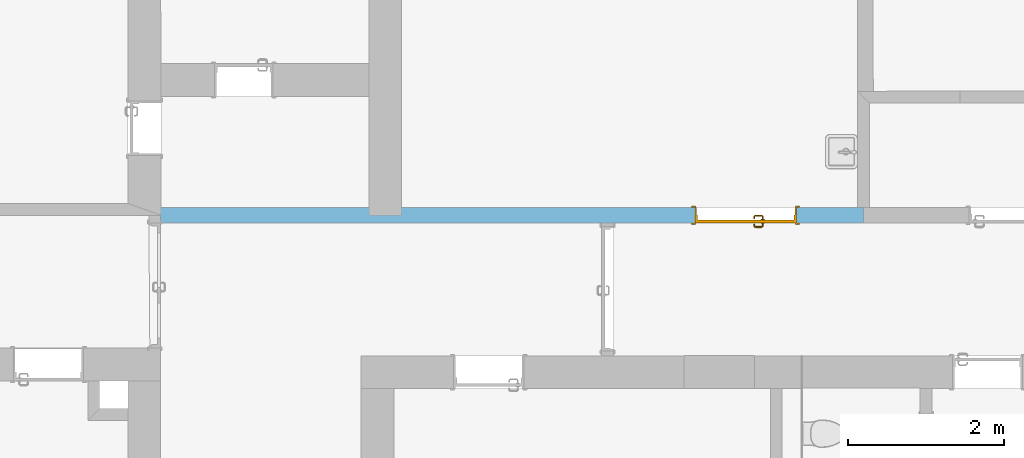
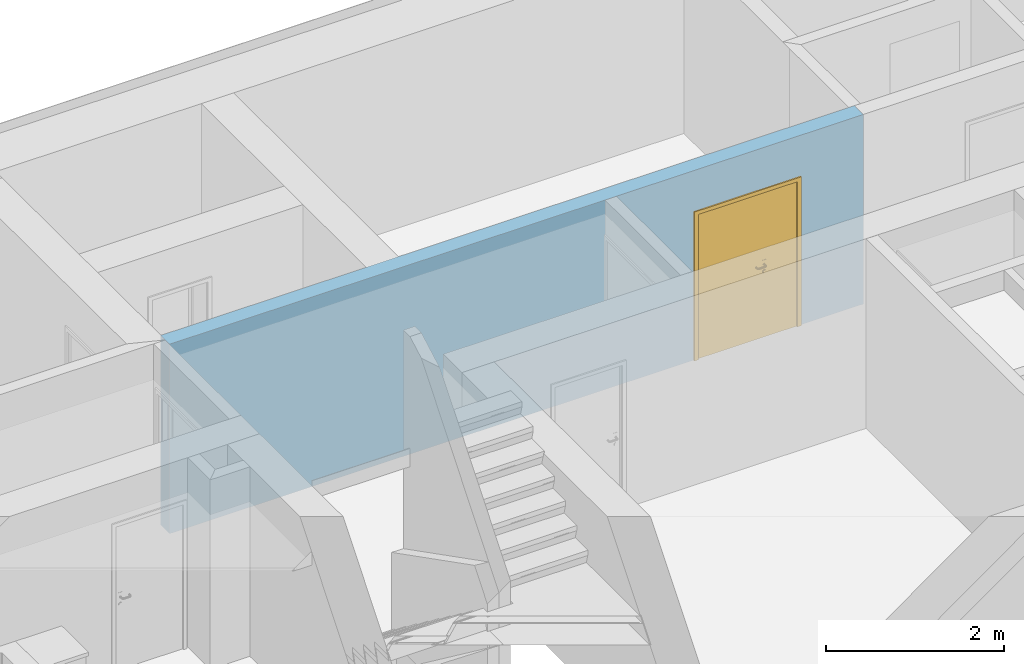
# One storey, part 52 of 127: 1 door, 1 opening, plus 1 element that does not belong to this part.
"""IFC2X3 building model written with IfcOpenShell, lengths in millimetres."""

from ifc_helpers import new_model, entity, si_unit, converted_unit, derived_unit, money_unit, direction, frame, origin_with_axes, origin_2d_with_axis, place, context, subcontext, project, spatial, polyline, rectangle, outline, extrude, open_shell, faceted_brep, surface_model, material, layer, layer_set, layer_usage, type_object, element, fill, save


model = new_model("IFC2X3")

# Units and contexts
model_context = context("Model", 3, precision=1e-05, world=origin_with_axes(), true_north=direction((0.0, 1.0)))
body_context = subcontext(model_context, "Body", "Model", "MODEL_VIEW")
ifc_project = project(units=[si_unit("LENGTHUNIT", "METRE", prefix="MILLI"), si_unit("AREAUNIT", "SQUARE_METRE"), si_unit("VOLUMEUNIT", "CUBIC_METRE"), converted_unit("PLANEANGLEUNIT", "DEGREE", entity("IfcPlaneAngleMeasure", 0.0174532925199), si_unit("PLANEANGLEUNIT", "RADIAN"), dimensions=[0, 0, 0, 0, 0, 0, 0]), si_unit("SOLIDANGLEUNIT", "STERADIAN"), money_unit("EUR"), converted_unit("TIMEUNIT", "Year", entity("IfcTimeMeasure", 31556926.0), si_unit("TIMEUNIT", "SECOND"), dimensions=[0, 0, 1, 0, 0, 0, 0]), si_unit("MASSUNIT", "GRAM", prefix="KILO"), si_unit("THERMODYNAMICTEMPERATUREUNIT", "DEGREE_CELSIUS"), si_unit("LUMINOUSINTENSITYUNIT", "LUMEN"), si_unit("ENERGYUNIT", "JOULE", prefix="MEGA"), derived_unit("THERMALCONDUCTANCEUNIT", [(si_unit("POWERUNIT", "WATT"), 1), (si_unit("LENGTHUNIT", "METRE"), -1), (si_unit("THERMODYNAMICTEMPERATUREUNIT", "KELVIN"), -1)]), derived_unit("SPECIFICHEATCAPACITYUNIT", [(si_unit("ENERGYUNIT", "JOULE"), 1), (si_unit("MASSUNIT", "GRAM", prefix="KILO"), -1), (si_unit("THERMODYNAMICTEMPERATUREUNIT", "KELVIN"), -1)]), derived_unit("MASSDENSITYUNIT", [(si_unit("MASSUNIT", "GRAM", prefix="KILO"), 1), (si_unit("VOLUMEUNIT", "CUBIC_METRE"), -1)])], contexts=[model_context])

# Site, building, storey
site_placement = place(None, origin_with_axes())
site = spatial("IfcSite", under=ifc_project, at=site_placement, Name="Site", CompositionType="ELEMENT")
building_placement = place(site_placement, origin_with_axes())
building = spatial("IfcBuilding", under=site, at=building_placement, Name="Building", CompositionType="ELEMENT")
storey_placement = place(building_placement, origin_with_axes())
storey = spatial("IfcBuildingStorey", under=building, at=storey_placement, Name="1 KORRUS", CompositionType="ELEMENT", Elevation=0.0)

# Wall, opening, door
ifc_material = material(Name="Kivi -Ol.Olev Konstruktsioon")
ifc_layer = layer(ifc_material, 200.0, ventilated="UNKNOWN")
ifc_layer_set = layer_set([ifc_layer], Name="ol.olev ss 200")
ifc_layer_usage = layer_usage(ifc_layer_set, "AXIS2", "POSITIVE", 0.0)
wall_type = type_object("IfcWallType", Name="SW - 022", PredefinedType="NOTDEFINED")
wall_placement = place(storey_placement, frame((61003.0967079, 42706.5120665, 0.0), z_axis=(0.0, 0.0, 1.0), x_axis=(1.0, 0.0, 0.0)))
wall = element("IfcWallStandardCase", 1, at=wall_placement, inside=storey, type_object=wall_type, material=ifc_layer_usage, Name="ol.olev ss 200", context=body_context, shape_type="SweptSolid", body=[
    extrude(outline(polyline([(150.0, 0.0), (9153.67790521, 0.0), (9153.67790521, 200.0), (150.0, 200.0), (150.0, 0.0)])), origin_with_axes(), (0.0, 0.0, 1.0), 2600.0),
])
opening_placement = place(wall_placement, frame((7643.5744531, 0.0, 0.0), z_axis=(0.0, 0.0, 1.0), x_axis=(1.0, 0.0, 0.0)))
opening = element("IfcOpeningElement", 2, at=opening_placement, cuts=wall, Name="Siseuks * Metal Double Door 22", context=body_context, shape_type="SweptSolid", body=[
    extrude(rectangle(XDim=1300.0, YDim=2000.0, at=origin_2d_with_axis()), frame((0.0, 200.0, 1000.0), z_axis=(0.0, -1.0, 0.0), x_axis=(-1.0, 0.0, 0.0)), (0.0, 0.0, 1.0), 600.0),
    extrude(rectangle(XDim=1386.0, YDim=2043.0, at=origin_2d_with_axis()), frame((0.0, 200.0, 1021.5), z_axis=(0.0, -1.0, 0.0), x_axis=(-1.0, 0.0, 0.0)), (0.0, 0.0, -1.0), 200.0),
    extrude(rectangle(XDim=1386.0, YDim=2043.0, at=origin_2d_with_axis()), frame((0.0, 0.0, 1021.5), z_axis=(0.0, 1.0, 0.0), x_axis=(-1.0, 0.0, 0.0)), (0.0, 0.0, -1.0), 200.0),
])
door_style = type_object("IfcDoorStyle", Name="SU-B124   1\xa0300×2\xa0000", ConstructionType="NOTDEFINED", OperationType="DOUBLE_DOOR_SINGLE_SWING", ParameterTakesPrecedence=False, Sizeable=False)
door_placement = place(opening_placement, frame((650.0, 0.0, 0.0), z_axis=(0.0, 0.0, 1.0), x_axis=(-1.0, 0.0, 0.0)))
door = element("IfcDoor", 3, at=door_placement, inside=storey, type_object=door_style, Name="Siseuks * Metal Double Door 22", OverallHeight=2000.0, OverallWidth=1300.0, context=body_context, shape_type="SurfaceModel", body=[
    faceted_brep([(0.0, -100.0, 0.0), (19.0, -100.0, 0.0), (19.0, -200.0, 0.0), (0.0, -200.0, 0.0), (0.0, -100.0, 2000.0), (19.0, -100.0, 1981.0), (19.0, -200.0, 1981.0), (0.0, -200.0, 2000.0)], [[[0, 1, 2, 3]], [[0, 4, 5, 1]], [[1, 5, 6, 2]], [[3, 2, 6, 7]], [[4, 0, 3, 7]], [[5, 4, 7, 6]]]),
    faceted_brep([(1300.0, -100.0, 2000.0), (1281.0, -100.0, 1981.0), (1281.0, -200.0, 1981.0), (1300.0, -200.0, 2000.0), (1300.0, -100.0, 0.0), (1281.0, -100.0, 0.0), (1281.0, -200.0, 0.0), (1300.0, -200.0, 0.0)], [[[0, 1, 2, 3]], [[0, 4, 5, 1]], [[1, 5, 6, 2]], [[3, 2, 6, 7]], [[4, 0, 3, 7]], [[5, 4, 7, 6]]]),
    faceted_brep([(19.0, -100.0, 1981.0), (1281.0, -100.0, 1981.0), (1281.0, -200.0, 1981.0), (19.0, -200.0, 1981.0), (0.0, -100.0, 2000.0), (1300.0, -100.0, 2000.0), (1300.0, -200.0, 2000.0), (0.0, -200.0, 2000.0)], [[[0, 1, 2, 3]], [[0, 4, 5, 1]], [[1, 5, 6, 2]], [[3, 2, 6, 7]], [[4, 0, 3, 7]], [[5, 4, 7, 6]]]),
    faceted_brep([(-43.0, -219.0, 0.0), (-43.0, -200.0, 0.0), (6.99999999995, -200.0, 0.0), (6.99999999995, -219.0, 0.0), (-43.0, -219.0, 2043.0), (-43.0, -200.0, 2043.0), (6.99999999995, -200.0, 1993.0), (6.99999999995, -219.0, 1993.0)], [[[0, 1, 2, 3]], [[4, 5, 1, 0]], [[1, 5, 6, 2]], [[3, 2, 6, 7]], [[0, 3, 7, 4]], [[7, 6, 5, 4]]]),
    faceted_brep([(1343.0, -219.0, 2043.0), (1343.0, -200.0, 2043.0), (1293.0, -200.0, 1993.0), (1293.0, -219.0, 1993.0), (1343.0, -219.0, 0.0), (1343.0, -200.0, 0.0), (1293.0, -200.0, 0.0), (1293.0, -219.0, 0.0)], [[[0, 1, 2, 3]], [[4, 5, 1, 0]], [[1, 5, 6, 2]], [[3, 2, 6, 7]], [[0, 3, 7, 4]], [[7, 6, 5, 4]]]),
    faceted_brep([(-43.0, -219.0, 2043.0), (-43.0, -200.0, 2043.0), (6.99999999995, -200.0, 1993.0), (6.99999999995, -219.0, 1993.0), (1343.0, -219.0, 2043.0), (1343.0, -200.0, 2043.0), (1293.0, -200.0, 1993.0), (1293.0, -219.0, 1993.0)], [[[0, 1, 2, 3]], [[4, 5, 1, 0]], [[1, 5, 6, 2]], [[3, 2, 6, 7]], [[0, 3, 7, 4]], [[7, 6, 5, 4]]]),
    faceted_brep([(-43.0, 19.0000000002, 0.0), (6.99999999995, 19.0000000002, 0.0), (6.99999999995, 0.0, 0.0), (-43.0, 0.0, 0.0), (-43.0, 19.0000000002, 2043.0), (6.99999999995, 19.0000000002, 1993.0), (6.99999999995, 0.0, 1993.0), (-43.0, 0.0, 2043.0)], [[[0, 1, 2, 3]], [[0, 4, 5, 1]], [[1, 5, 6, 2]], [[3, 2, 6, 7]], [[4, 0, 3, 7]], [[5, 4, 7, 6]]]),
    faceted_brep([(1343.0, 19.0000000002, 2043.0), (1293.0, 19.0000000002, 1993.0), (1293.0, 0.0, 1993.0), (1343.0, 0.0, 2043.0), (1343.0, 19.0000000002, 0.0), (1293.0, 19.0000000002, 0.0), (1293.0, 0.0, 0.0), (1343.0, 0.0, 0.0)], [[[0, 1, 2, 3]], [[0, 4, 5, 1]], [[1, 5, 6, 2]], [[3, 2, 6, 7]], [[4, 0, 3, 7]], [[5, 4, 7, 6]]]),
    faceted_brep([(-43.0, 19.0000000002, 2043.0), (6.99999999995, 19.0000000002, 1993.0), (6.99999999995, 0.0, 1993.0), (-43.0, 0.0, 2043.0), (1343.0, 19.0000000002, 2043.0), (1293.0, 19.0000000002, 1993.0), (1293.0, 0.0, 1993.0), (1343.0, 0.0, 2043.0)], [[[0, 1, 2, 3]], [[0, 4, 5, 1]], [[1, 5, 6, 2]], [[3, 2, 6, 7]], [[4, 0, 3, 7]], [[5, 4, 7, 6]]]),
    faceted_brep([(31.9999999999, -40.0, 0.0), (31.9999999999, -40.0, 1968.0), (31.9999999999, -100.0, 1968.0), (31.9999999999, -100.0, 0.0), (20.0, -40.0, 1968.0), (20.0, -40.0, 0.0), (20.0, 0.0, 1968.0), (0.0, 0.0, 1968.0), (0.0, -100.0, 1968.0), (0.0, -100.0, 0.0), (0.0, 0.0, 0.0), (20.0, 0.0, 0.0)], [[[0, 1, 2, 3]], [[4, 1, 0, 5]], [[4, 6, 7, 8, 2, 1]], [[3, 2, 8, 9]], [[5, 0, 3, 9, 10, 11]], [[6, 4, 5, 11]], [[6, 11, 10, 7]], [[10, 9, 8, 7]]]),
    faceted_brep([(1280.0, -40.0, 1968.0), (1268.0, -40.0, 1968.0), (1268.0, -100.0, 1968.0), (1300.0, -100.0, 1968.0), (1300.0, 0.0, 1968.0), (1280.0, 0.0, 1968.0), (1280.0, -40.0, 0.0), (1268.0, -40.0, 0.0), (1268.0, -100.0, 0.0), (1300.0, -100.0, 0.0), (1300.0, 0.0, 0.0), (1280.0, 0.0, 0.0)], [[[0, 1, 2, 3, 4, 5]], [[1, 0, 6, 7]], [[1, 7, 8, 2]], [[3, 2, 8, 9]], [[4, 3, 9, 10]], [[11, 5, 4, 10]], [[0, 5, 11, 6]], [[6, 11, 10, 9, 8, 7]]]),
    faceted_brep([(20.0, 0.0, 1980.0), (20.0, 0.0, 1968.0), (0.0, 0.0, 1968.0), (0.0, 0.0, 2000.0), (1300.0, 0.0, 2000.0), (1300.0, 0.0, 1968.0), (1280.0, 0.0, 1968.0), (1280.0, 0.0, 1980.0), (20.0, -40.0, 1980.0), (20.0, -40.0, 1968.0), (31.9999999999, -40.0, 1968.0), (31.9999999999, -100.0, 1968.0), (0.0, -100.0, 1968.0), (0.0, -100.0, 2000.0), (1300.0, -100.0, 2000.0), (1300.0, -100.0, 1968.0), (1280.0, -40.0, 1968.0), (1268.0, -100.0, 1968.0), (1268.0, -40.0, 1968.0), (1280.0, -40.0, 1980.0)], [[[0, 1, 2, 3, 4, 5, 6, 7]], [[1, 0, 8, 9]], [[9, 10, 11, 12, 2, 1]], [[2, 12, 13, 3]], [[3, 13, 14, 4]], [[4, 14, 15, 5]], [[16, 6, 5, 15, 17, 18]], [[7, 6, 16, 19]], [[0, 7, 19, 8]], [[16, 18, 10, 9, 8, 19]], [[10, 18, 17, 11]], [[17, 15, 14, 13, 12, 11]]]),
    faceted_brep([(401.5, -40.0, 1060.0), (401.5, -42.9999999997, 1060.0), (458.5, -42.9999999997, 1060.0), (458.5, -40.0, 1060.0), (401.5, -40.0, 870.0), (401.5, -42.9999999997, 870.0), (458.5, -42.9999999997, 870.0), (458.5, -40.0, 870.0)], [[[0, 1, 2, 3]], [[4, 5, 1, 0]], [[1, 5, 6, 2]], [[3, 2, 6, 7]], [[0, 3, 7, 4]], [[7, 6, 5, 4]]]),
    surface_model("IfcShellBasedSurfaceModel", [(440.0, -52.9999999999, 1000.0), (440.0, -72.0150859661, 1000.0), (437.071067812, -72.3035606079, 992.928932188), (437.071067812, -52.9999999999, 992.928932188), (437.071067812, -52.9999999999, 1007.07106781), (437.071067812, -72.3035606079, 1007.07106781), (440.942203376, -76.7518622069, 1000.0), (438.183209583, -77.8946748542, 992.928932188), (430.0, -73.0000000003, 990.0), (430.0, -52.9999999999, 990.0), (430.0, -52.9999999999, 1010.0), (430.0, -73.0000000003, 1010.0), (438.183209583, -77.8946748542, 1007.07106781), (443.067462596, -79.9325374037, 1000.0), (440.955820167, -82.0441798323, 992.928932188), (431.52240935, -80.6536686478, 990.0), (422.928932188, -73.6964393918, 992.928932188), (422.928932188, -52.9999999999, 992.928932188), (422.928932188, -52.9999999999, 1007.07106781), (422.928932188, -73.6964393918, 1007.07106781), (431.52240935, -80.6536686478, 1010.0), (440.955820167, -82.0441798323, 1007.07106781), (446.248137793, -82.0577966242, 1000.0), (445.105325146, -84.8167904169, 992.928932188), (435.857864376, -87.1421356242, 990.0), (424.861609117, -83.4126624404, 992.928932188), (420.0, -73.9849140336, 1000.0), (420.0, -52.9999999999, 1000.0), (424.861609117, -83.4126624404, 1007.07106781), (435.857864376, -87.1421356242, 1010.0), (445.105325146, -84.8167904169, 1007.07106781), (450.984914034, -82.9999999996, 1000.0), (450.696439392, -85.9289321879, 992.928932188), (442.346331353, -91.4775906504, 990.0), (430.759908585, -92.2400914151, 992.928932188), (422.102615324, -84.5554750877, 1000.0), (430.759908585, -92.2400914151, 1007.07106781), (442.346331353, -91.4775906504, 1010.0), (450.696439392, -85.9289321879, 1007.07106781), (519.015085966, -82.9999999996, 1000.0), (519.303560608, -85.9289321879, 992.928932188), (450.0, -92.9999999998, 990.0), (439.58733756, -98.1383908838, 992.928932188), (428.648266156, -94.3517338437, 1000.0), (439.58733756, -98.1383908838, 1007.07106781), (450.0, -92.9999999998, 1010.0), (519.303560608, -85.9289321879, 1007.07106781), (523.751862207, -82.0577966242, 1000.0), (524.894674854, -84.8167904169, 992.928932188), (520.0, -92.9999999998, 990.0), (449.303560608, -100.071067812, 992.928932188), (438.444524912, -100.897384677, 1000.0), (449.303560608, -100.071067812, 1007.07106781), (520.0, -92.9999999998, 1010.0), (524.894674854, -84.8167904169, 1007.07106781), (526.932537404, -79.9325374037, 1000.0), (529.044179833, -82.0441798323, 992.928932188), (527.653668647, -91.4775906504, 990.0), (520.696439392, -100.071067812, 992.928932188), (449.015085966, -103.0, 1000.0), (520.696439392, -100.071067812, 1007.07106781), (527.653668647, -91.4775906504, 1010.0), (529.044179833, -82.0441798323, 1007.07106781), (529.057796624, -76.7518622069, 1000.0), (531.816790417, -77.8946748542, 992.928932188), (534.142135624, -87.1421356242, 990.0), (530.41266244, -98.1383908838, 992.928932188), (520.984914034, -103.0, 1000.0), (530.41266244, -98.1383908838, 1007.07106781), (534.142135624, -87.1421356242, 1010.0), (531.816790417, -77.8946748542, 1007.07106781), (530.0, -72.0150859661, 1000.0), (532.928932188, -72.3035606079, 992.928932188), (538.47759065, -80.6536686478, 990.0), (539.240091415, -92.2400914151, 992.928932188), (531.555475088, -100.897384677, 1000.0), (539.240091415, -92.2400914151, 1007.07106781), (538.47759065, -80.6536686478, 1010.0), (532.928932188, -72.3035606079, 1007.07106781), (530.0, -52.9999999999, 1000.0), (532.928932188, -52.9999999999, 992.928932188), (540.0, -73.0000000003, 990.0), (545.138390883, -83.4126624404, 992.928932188), (541.351733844, -94.3517338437, 1000.0), (545.138390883, -83.4126624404, 1007.07106781), (540.0, -73.0000000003, 1010.0), (532.928932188, -52.9999999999, 1007.07106781), (540.0, -52.9999999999, 1010.0), (547.071067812, -52.9999999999, 1007.07106781), (550.0, -52.9999999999, 1000.0), (547.071067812, -52.9999999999, 992.928932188), (540.0, -52.9999999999, 990.0), (547.071067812, -73.6964393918, 992.928932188), (547.897384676, -84.5554750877, 1000.0), (547.071067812, -73.6964393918, 1007.07106781), (550.0, -73.9849140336, 1000.0)], [open_shell([[[0, 1, 2, 3]], [[4, 5, 1, 0]], [[1, 6, 7, 2]], [[3, 2, 8, 9]], [[10, 11, 5, 4]], [[5, 12, 6, 1]], [[6, 13, 14, 7]], [[2, 7, 15, 8]], [[9, 8, 16, 17]], [[18, 19, 11, 10]], [[11, 20, 12, 5]], [[12, 21, 13, 6]], [[13, 22, 23, 14]], [[7, 14, 24, 15]], [[8, 15, 25, 16]], [[17, 16, 26, 27]], [[27, 26, 19, 18]], [[19, 28, 20, 11]], [[20, 29, 21, 12]], [[21, 30, 22, 13]], [[22, 31, 32, 23]], [[14, 23, 33, 24]], [[15, 24, 34, 25]], [[16, 25, 35, 26]], [[26, 35, 28, 19]], [[28, 36, 29, 20]], [[29, 37, 30, 21]], [[30, 38, 31, 22]], [[31, 39, 40, 32]], [[23, 32, 41, 33]], [[24, 33, 42, 34]], [[25, 34, 43, 35]], [[35, 43, 36, 28]], [[36, 44, 37, 29]], [[37, 45, 38, 30]], [[38, 46, 39, 31]], [[39, 47, 48, 40]], [[32, 40, 49, 41]], [[33, 41, 50, 42]], [[34, 42, 51, 43]], [[43, 51, 44, 36]], [[44, 52, 45, 37]], [[45, 53, 46, 38]], [[46, 54, 47, 39]], [[47, 55, 56, 48]], [[40, 48, 57, 49]], [[41, 49, 58, 50]], [[42, 50, 59, 51]], [[51, 59, 52, 44]], [[52, 60, 53, 45]], [[53, 61, 54, 46]], [[54, 62, 55, 47]], [[55, 63, 64, 56]], [[48, 56, 65, 57]], [[49, 57, 66, 58]], [[50, 58, 67, 59]], [[59, 67, 60, 52]], [[60, 68, 61, 53]], [[61, 69, 62, 54]], [[62, 70, 63, 55]], [[63, 71, 72, 64]], [[56, 64, 73, 65]], [[57, 65, 74, 66]], [[58, 66, 75, 67]], [[67, 75, 68, 60]], [[68, 76, 69, 61]], [[69, 77, 70, 62]], [[70, 78, 71, 63]], [[71, 79, 80, 72]], [[64, 72, 81, 73]], [[65, 73, 82, 74]], [[66, 74, 83, 75]], [[75, 83, 76, 68]], [[76, 84, 77, 69]], [[77, 85, 78, 70]], [[78, 86, 79, 71]], [[79, 86, 87, 88, 89, 90, 91, 80]], [[72, 80, 91, 81]], [[73, 81, 92, 82]], [[74, 82, 93, 83]], [[83, 93, 84, 76]], [[84, 94, 85, 77]], [[85, 87, 86, 78]], [[94, 88, 87, 85]], [[95, 89, 88, 94]], [[92, 90, 89, 95]], [[81, 91, 90, 92]], [[82, 92, 95, 93]], [[93, 95, 94, 84]]])]),
    faceted_brep([(440.392304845, -52.9999999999, 994.0), (441.258330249, -42.9999999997, 993.5), (443.0, -42.9999999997, 1000.0), (442.0, -52.9999999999, 1000.0), (436.0, -52.9999999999, 989.607695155), (436.5, -42.9999999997, 988.741669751), (430.0, -42.9999999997, 987.0), (423.5, -42.9999999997, 988.741669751), (418.741669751, -42.9999999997, 993.5), (417.0, -42.9999999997, 1000.0), (418.741669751, -42.9999999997, 1006.5), (423.5, -42.9999999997, 1011.25833025), (430.0, -42.9999999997, 1013.0), (436.5, -42.9999999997, 1011.25833025), (441.258330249, -42.9999999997, 1006.5), (440.392304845, -52.9999999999, 1006.0), (436.0, -52.9999999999, 1010.39230485), (430.0, -52.9999999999, 1012.0), (424.0, -52.9999999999, 1010.39230485), (419.607695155, -52.9999999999, 1006.0), (418.0, -52.9999999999, 1000.0), (419.607695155, -52.9999999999, 994.0), (424.0, -52.9999999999, 989.607695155), (430.0, -52.9999999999, 988.0)], [[[0, 1, 2, 3]], [[4, 5, 1, 0]], [[2, 1, 5, 6, 7, 8, 9, 10, 11, 12, 13, 14]], [[3, 2, 14, 15]], [[3, 15, 16, 17, 18, 19, 20, 21, 22, 23, 4, 0]], [[23, 6, 5, 4]], [[22, 7, 6, 23]], [[21, 8, 7, 22]], [[20, 9, 8, 21]], [[19, 10, 9, 20]], [[18, 11, 10, 19]], [[17, 12, 11, 18]], [[16, 13, 12, 17]], [[15, 14, 13, 16]]]),
    faceted_brep([(447.320508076, -46.9999999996, 895.0), (449.052558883, -42.9999999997, 894.0), (452.0, -42.9999999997, 905.0), (450.0, -46.9999999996, 905.0), (440.0, -46.9999999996, 887.679491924), (441.0, -42.9999999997, 885.947441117), (430.0, -42.9999999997, 883.0), (419.0, -42.9999999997, 885.947441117), (410.947441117, -42.9999999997, 894.0), (408.0, -42.9999999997, 905.0), (410.947441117, -42.9999999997, 916.0), (419.0, -42.9999999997, 924.052558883), (430.0, -42.9999999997, 927.0), (441.0, -42.9999999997, 924.052558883), (449.052558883, -42.9999999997, 916.0), (447.320508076, -46.9999999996, 915.0), (440.0, -46.9999999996, 922.320508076), (430.0, -46.9999999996, 925.0), (420.0, -46.9999999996, 922.320508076), (412.679491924, -46.9999999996, 915.0), (410.0, -46.9999999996, 905.0), (412.679491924, -46.9999999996, 895.0), (420.0, -46.9999999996, 887.679491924), (430.0, -46.9999999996, 885.0)], [[[0, 1, 2, 3]], [[4, 5, 1, 0]], [[2, 1, 5, 6, 7, 8, 9, 10, 11, 12, 13, 14]], [[3, 2, 14, 15]], [[3, 15, 16, 17, 18, 19, 20, 21, 22, 23, 4, 0]], [[23, 6, 5, 4]], [[22, 7, 6, 23]], [[21, 8, 7, 22]], [[20, 9, 8, 21]], [[19, 10, 9, 20]], [[18, 11, 10, 19]], [[17, 12, 11, 18]], [[16, 13, 12, 17]], [[15, 14, 13, 16]]]),
    faceted_brep([(434.949747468, -49.0, 909.050252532), (435.656854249, -46.9999999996, 908.343145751), (438.0, -46.9999999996, 914.0), (437.0, -49.0, 914.0), (430.0, -49.0, 907.0), (430.0, -46.9999999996, 906.0), (424.343145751, -46.9999999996, 908.343145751), (422.0, -46.9999999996, 914.0), (424.343145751, -46.9999999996, 919.656854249), (430.0, -46.9999999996, 922.0), (435.656854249, -46.9999999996, 919.656854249), (434.949747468, -49.0, 918.949747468), (430.0, -49.0, 921.0), (425.050252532, -49.0, 918.949747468), (423.0, -49.0, 914.0), (425.050252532, -49.0, 909.050252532)], [[[0, 1, 2, 3]], [[4, 5, 1, 0]], [[2, 1, 5, 6, 7, 8, 9, 10]], [[3, 2, 10, 11]], [[3, 11, 12, 13, 14, 15, 4, 0]], [[15, 6, 5, 4]], [[14, 7, 6, 15]], [[13, 8, 7, 14]], [[12, 9, 8, 13]], [[11, 10, 9, 12]]]),
    faceted_brep([(401.5, 0.0, 1060.0), (458.5, 0.0, 1060.0), (458.5, 2.9999999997, 1060.0), (401.5, 2.9999999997, 1060.0), (401.5, 0.0, 870.0), (458.5, 0.0, 870.0), (458.5, 2.9999999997, 870.0), (401.5, 2.9999999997, 870.0)], [[[0, 1, 2, 3]], [[0, 4, 5, 1]], [[1, 5, 6, 2]], [[3, 2, 6, 7]], [[4, 0, 3, 7]], [[5, 4, 7, 6]]]),
    surface_model("IfcShellBasedSurfaceModel", [(440.0, 12.9999999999, 1000.0), (437.071067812, 12.9999999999, 992.928932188), (437.071067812, 32.3035606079, 992.928932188), (440.0, 32.0150859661, 1000.0), (430.0, 12.9999999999, 990.0), (430.0, 33.0000000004, 990.0), (438.183209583, 37.8946748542, 992.928932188), (440.942203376, 36.751862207, 1000.0), (437.071067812, 12.9999999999, 1007.07106781), (437.071067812, 32.3035606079, 1007.07106781), (422.928932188, 12.9999999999, 992.928932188), (422.928932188, 33.6964393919, 992.928932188), (431.52240935, 40.6536686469, 990.0), (440.955820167, 42.0441798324, 992.928932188), (443.067462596, 39.9325374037, 1000.0), (438.183209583, 37.8946748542, 1007.07106781), (430.0, 12.9999999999, 1010.0), (430.0, 33.0000000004, 1010.0), (420.0, 12.9999999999, 1000.0), (420.0, 33.9849140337, 1000.0), (424.861609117, 43.4126624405, 992.928932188), (435.857864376, 47.1421356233, 990.0), (445.105325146, 44.8167904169, 992.928932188), (446.248137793, 42.0577966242, 1000.0), (440.955820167, 42.0441798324, 1007.07106781), (431.52240935, 40.6536686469, 1010.0), (422.928932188, 12.9999999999, 1007.07106781), (422.928932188, 33.6964393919, 1007.07106781), (422.102615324, 44.5554750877, 1000.0), (430.759908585, 52.2400914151, 992.928932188), (442.346331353, 51.4775906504, 990.0), (450.696439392, 45.928932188, 992.928932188), (450.984914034, 42.9999999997, 1000.0), (445.105325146, 44.8167904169, 1007.07106781), (435.857864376, 47.1421356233, 1010.0), (424.861609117, 43.4126624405, 1007.07106781), (428.648266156, 54.3517338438, 1000.0), (439.58733756, 58.138390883, 992.928932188), (450.0, 52.9999999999, 990.0), (519.303560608, 45.928932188, 992.928932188), (519.015085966, 42.9999999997, 1000.0), (450.696439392, 45.928932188, 1007.07106781), (442.346331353, 51.4775906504, 1010.0), (430.759908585, 52.2400914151, 1007.07106781), (438.444524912, 60.8973846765, 1000.0), (449.303560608, 60.0710678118, 992.928932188), (520.0, 52.9999999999, 990.0), (524.894674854, 44.8167904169, 992.928932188), (523.751862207, 42.0577966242, 1000.0), (519.303560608, 45.928932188, 1007.07106781), (450.0, 52.9999999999, 1010.0), (439.58733756, 58.138390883, 1007.07106781), (449.015085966, 63.0000000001, 1000.0), (520.696439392, 60.0710678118, 992.928932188), (527.653668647, 51.4775906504, 990.0), (529.044179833, 42.0441798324, 992.928932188), (526.932537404, 39.9325374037, 1000.0), (524.894674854, 44.8167904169, 1007.07106781), (520.0, 52.9999999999, 1010.0), (449.303560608, 60.0710678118, 1007.07106781), (520.984914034, 63.0000000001, 1000.0), (530.41266244, 58.138390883, 992.928932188), (534.142135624, 47.1421356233, 990.0), (531.816790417, 37.8946748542, 992.928932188), (529.057796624, 36.751862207, 1000.0), (529.044179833, 42.0441798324, 1007.07106781), (527.653668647, 51.4775906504, 1010.0), (520.696439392, 60.0710678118, 1007.07106781), (531.555475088, 60.8973846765, 1000.0), (539.240091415, 52.2400914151, 992.928932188), (538.47759065, 40.6536686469, 990.0), (532.928932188, 32.3035606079, 992.928932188), (530.0, 32.0150859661, 1000.0), (531.816790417, 37.8946748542, 1007.07106781), (534.142135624, 47.1421356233, 1010.0), (530.41266244, 58.138390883, 1007.07106781), (541.351733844, 54.3517338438, 1000.0), (545.138390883, 43.4126624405, 992.928932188), (540.0, 33.0000000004, 990.0), (532.928932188, 12.9999999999, 992.928932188), (530.0, 12.9999999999, 1000.0), (532.928932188, 32.3035606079, 1007.07106781), (538.47759065, 40.6536686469, 1010.0), (539.240091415, 52.2400914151, 1007.07106781), (547.897384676, 44.5554750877, 1000.0), (547.071067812, 33.6964393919, 992.928932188), (540.0, 12.9999999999, 990.0), (547.071067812, 12.9999999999, 992.928932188), (550.0, 12.9999999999, 1000.0), (547.071067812, 12.9999999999, 1007.07106781), (540.0, 12.9999999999, 1010.0), (532.928932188, 12.9999999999, 1007.07106781), (540.0, 33.0000000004, 1010.0), (545.138390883, 43.4126624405, 1007.07106781), (550.0, 33.9849140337, 1000.0), (547.071067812, 33.6964393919, 1007.07106781)], [open_shell([[[0, 1, 2, 3]], [[1, 4, 5, 2]], [[3, 2, 6, 7]], [[8, 0, 3, 9]], [[4, 10, 11, 5]], [[2, 5, 12, 6]], [[7, 6, 13, 14]], [[9, 3, 7, 15]], [[16, 8, 9, 17]], [[10, 18, 19, 11]], [[5, 11, 20, 12]], [[6, 12, 21, 13]], [[14, 13, 22, 23]], [[15, 7, 14, 24]], [[17, 9, 15, 25]], [[26, 16, 17, 27]], [[18, 26, 27, 19]], [[11, 19, 28, 20]], [[12, 20, 29, 21]], [[13, 21, 30, 22]], [[23, 22, 31, 32]], [[24, 14, 23, 33]], [[25, 15, 24, 34]], [[27, 17, 25, 35]], [[19, 27, 35, 28]], [[20, 28, 36, 29]], [[21, 29, 37, 30]], [[22, 30, 38, 31]], [[32, 31, 39, 40]], [[33, 23, 32, 41]], [[34, 24, 33, 42]], [[35, 25, 34, 43]], [[28, 35, 43, 36]], [[29, 36, 44, 37]], [[30, 37, 45, 38]], [[31, 38, 46, 39]], [[40, 39, 47, 48]], [[41, 32, 40, 49]], [[42, 33, 41, 50]], [[43, 34, 42, 51]], [[36, 43, 51, 44]], [[37, 44, 52, 45]], [[38, 45, 53, 46]], [[39, 46, 54, 47]], [[48, 47, 55, 56]], [[49, 40, 48, 57]], [[50, 41, 49, 58]], [[51, 42, 50, 59]], [[44, 51, 59, 52]], [[45, 52, 60, 53]], [[46, 53, 61, 54]], [[47, 54, 62, 55]], [[56, 55, 63, 64]], [[57, 48, 56, 65]], [[58, 49, 57, 66]], [[59, 50, 58, 67]], [[52, 59, 67, 60]], [[53, 60, 68, 61]], [[54, 61, 69, 62]], [[55, 62, 70, 63]], [[64, 63, 71, 72]], [[65, 56, 64, 73]], [[66, 57, 65, 74]], [[67, 58, 66, 75]], [[60, 67, 75, 68]], [[61, 68, 76, 69]], [[62, 69, 77, 70]], [[63, 70, 78, 71]], [[72, 71, 79, 80]], [[73, 64, 72, 81]], [[74, 65, 73, 82]], [[75, 66, 74, 83]], [[68, 75, 83, 76]], [[69, 76, 84, 77]], [[70, 77, 85, 78]], [[71, 78, 86, 79]], [[80, 79, 86, 87, 88, 89, 90, 91]], [[81, 72, 80, 91]], [[82, 73, 81, 92]], [[83, 74, 82, 93]], [[76, 83, 93, 84]], [[77, 84, 94, 85]], [[78, 85, 87, 86]], [[85, 94, 88, 87]], [[94, 95, 89, 88]], [[95, 92, 90, 89]], [[92, 81, 91, 90]], [[93, 82, 92, 95]], [[84, 93, 95, 94]]])]),
    faceted_brep([(440.392304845, 12.9999999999, 994.0), (442.0, 12.9999999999, 1000.0), (443.0, 2.9999999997, 1000.0), (441.258330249, 2.9999999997, 993.5), (436.0, 12.9999999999, 989.607695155), (430.0, 12.9999999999, 988.0), (424.0, 12.9999999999, 989.607695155), (419.607695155, 12.9999999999, 994.0), (418.0, 12.9999999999, 1000.0), (419.607695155, 12.9999999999, 1006.0), (424.0, 12.9999999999, 1010.39230485), (430.0, 12.9999999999, 1012.0), (436.0, 12.9999999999, 1010.39230485), (440.392304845, 12.9999999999, 1006.0), (441.258330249, 2.9999999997, 1006.5), (436.5, 2.9999999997, 1011.25833025), (430.0, 2.9999999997, 1013.0), (423.5, 2.9999999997, 1011.25833025), (418.741669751, 2.9999999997, 1006.5), (417.0, 2.9999999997, 1000.0), (418.741669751, 2.9999999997, 993.5), (423.5, 2.9999999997, 988.741669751), (430.0, 2.9999999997, 987.0), (436.5, 2.9999999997, 988.741669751)], [[[0, 1, 2, 3]], [[1, 0, 4, 5, 6, 7, 8, 9, 10, 11, 12, 13]], [[1, 13, 14, 2]], [[2, 14, 15, 16, 17, 18, 19, 20, 21, 22, 23, 3]], [[4, 0, 3, 23]], [[5, 4, 23, 22]], [[6, 5, 22, 21]], [[7, 6, 21, 20]], [[8, 7, 20, 19]], [[9, 8, 19, 18]], [[10, 9, 18, 17]], [[11, 10, 17, 16]], [[12, 11, 16, 15]], [[13, 12, 15, 14]]]),
    faceted_brep([(447.320508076, 6.99999999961, 895.0), (450.0, 6.99999999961, 905.0), (452.0, 2.9999999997, 905.0), (449.052558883, 2.9999999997, 894.0), (440.0, 6.99999999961, 887.679491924), (430.0, 6.99999999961, 885.0), (420.0, 6.99999999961, 887.679491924), (412.679491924, 6.99999999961, 895.0), (410.0, 6.99999999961, 905.0), (412.679491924, 6.99999999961, 915.0), (420.0, 6.99999999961, 922.320508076), (430.0, 6.99999999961, 925.0), (440.0, 6.99999999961, 922.320508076), (447.320508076, 6.99999999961, 915.0), (449.052558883, 2.9999999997, 916.0), (441.0, 2.9999999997, 924.052558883), (430.0, 2.9999999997, 927.0), (419.0, 2.9999999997, 924.052558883), (410.947441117, 2.9999999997, 916.0), (408.0, 2.9999999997, 905.0), (410.947441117, 2.9999999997, 894.0), (419.0, 2.9999999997, 885.947441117), (430.0, 2.9999999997, 883.0), (441.0, 2.9999999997, 885.947441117)], [[[0, 1, 2, 3]], [[1, 0, 4, 5, 6, 7, 8, 9, 10, 11, 12, 13]], [[1, 13, 14, 2]], [[2, 14, 15, 16, 17, 18, 19, 20, 21, 22, 23, 3]], [[4, 0, 3, 23]], [[5, 4, 23, 22]], [[6, 5, 22, 21]], [[7, 6, 21, 20]], [[8, 7, 20, 19]], [[9, 8, 19, 18]], [[10, 9, 18, 17]], [[11, 10, 17, 16]], [[12, 11, 16, 15]], [[13, 12, 15, 14]]]),
    faceted_brep([(434.949747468, 9.00000000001, 909.050252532), (437.0, 9.00000000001, 914.0), (438.0, 6.99999999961, 914.0), (435.656854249, 6.99999999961, 908.343145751), (430.0, 9.00000000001, 907.0), (425.050252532, 9.00000000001, 909.050252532), (423.0, 9.00000000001, 914.0), (425.050252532, 9.00000000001, 918.949747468), (430.0, 9.00000000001, 921.0), (434.949747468, 9.00000000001, 918.949747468), (435.656854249, 6.99999999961, 919.656854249), (430.0, 6.99999999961, 922.0), (424.343145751, 6.99999999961, 919.656854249), (422.0, 6.99999999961, 914.0), (424.343145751, 6.99999999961, 908.343145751), (430.0, 6.99999999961, 906.0)], [[[0, 1, 2, 3]], [[1, 0, 4, 5, 6, 7, 8, 9]], [[1, 9, 10, 2]], [[2, 10, 11, 12, 13, 14, 15, 3]], [[4, 0, 3, 15]], [[5, 4, 15, 14]], [[6, 5, 14, 13]], [[7, 6, 13, 12]], [[8, 7, 12, 11]], [[9, 8, 11, 10]]]),
    faceted_brep([(1280.0, 0.0, 0.0), (1280.0, -40.0, 0.0), (380.0, -40.0, 0.0), (380.0, 0.0, 0.0), (1280.0, 0.0, 1980.0), (1280.0, -40.0, 1980.0), (380.0, -40.0, 1980.0), (380.0, 0.0, 1980.0)], [[[0, 1, 2, 3]], [[4, 5, 1, 0]], [[1, 5, 6, 2]], [[3, 2, 6, 7]], [[0, 3, 7, 4]], [[7, 6, 5, 4]]]),
    faceted_brep([(20.0, 0.0, 0.0), (380.0, 0.0, 0.0), (380.0, -40.0, 0.0), (20.0, -40.0, 0.0), (20.0, 0.0, 1980.0), (380.0, 0.0, 1980.0), (380.0, -40.0, 1980.0), (20.0, -40.0, 1980.0)], [[[0, 1, 2, 3]], [[0, 4, 5, 1]], [[1, 5, 6, 2]], [[3, 2, 6, 7]], [[4, 0, 3, 7]], [[5, 4, 7, 6]]]),
])
fill(opening, door)

save(model, "model.ifc")
